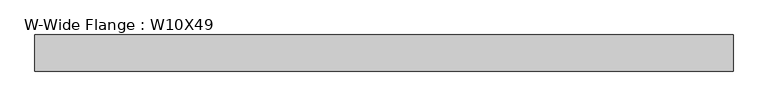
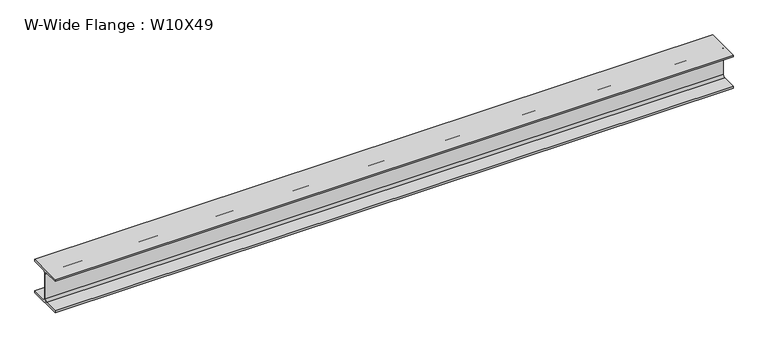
"""IFC4 building model written with IfcOpenShell, lengths in millimetres: beam geometry, W-Wide Flange : W10X49."""

from ifc_helpers import new_model, si_unit, point, frame, frame_2d, origin, place, context, project, spatial, polyline, circle_curve, trimmed, segment, composite_curve, outline, extrude, source, transform, mapped, element, save


def w_wide_flange_w10x49_a7e93ba8(model_context):
    return source(origin(), model_context, "Body", "SweptSolid", [
        extrude(outline(composite_curve([segment(polyline([(127.0, -112.776), (127.0, -127.0), (-127.0, -127.0), (-127.0, -112.776), (-21.844, -112.776)]), True, "CONTINUOUS"), segment(trimmed(circle_curve(frame_2d((-21.844, -95.25)), 17.526), [point((-21.844, -112.776))], [point((-4.318, -95.25))], True, "CARTESIAN"), True, "CONTINUOUS"), segment(polyline([(-4.318, -95.25), (-4.318, 95.25)]), True, "CONTINUOUS"), segment(trimmed(circle_curve(frame_2d((-21.844, 95.25)), 17.526), [point((-4.318, 95.25))], [point((-21.844, 112.776))], True, "CARTESIAN"), True, "CONTINUOUS"), segment(polyline([(-21.844, 112.776), (-127.0, 112.776), (-127.0, 127.0), (127.0, 127.0), (127.0, 112.776), (21.844, 112.776)]), True, "CONTINUOUS"), segment(trimmed(circle_curve(frame_2d((21.844, 95.25)), 17.526), [point((21.844, 112.776))], [point((4.318, 95.25))], True, "CARTESIAN"), True, "CONTINUOUS"), segment(polyline([(4.318, 95.25), (4.318, -95.25)]), True, "CONTINUOUS"), segment(trimmed(circle_curve(frame_2d((21.844, -95.25)), 17.526), [point((4.318, -95.25))], [point((21.844, -112.776))], True, "CARTESIAN"), True, "CONTINUOUS"), segment(polyline([(21.844, -112.776), (127.0, -112.776)]), True, "CONTINUOUS")], self_intersect=False)), frame((-2434.7118235, 0.0, 0.0), z_axis=(1.0, 0.0, 0.0), x_axis=(0.0, 1.0, 0.0)), (0.0, 0.0, 1.0), 4912.4195312),
    ])


if __name__ == "__main__":
    model = new_model("IFC4")
    model_context = context("Model", 3, world=origin())
    ifc_project = project(units=[si_unit("LENGTHUNIT", "METRE", prefix="MILLI")], contexts=[model_context])
    site = spatial("IfcSite", under=ifc_project)
    building = spatial("IfcBuilding", under=site)
    placement = place(None, origin())
    w_wide_flange_w10x49_shape = w_wide_flange_w10x49_a7e93ba8(model_context)
    element("IfcBeam", 1, ObjectType="W-Wide Flange : W10X49", at=placement, inside=building, context=model_context, shape_type="MappedRepresentation", body=[
        mapped(w_wide_flange_w10x49_shape, transform((0.0, 0.0, 0.0), x_axis=(1.0, 0.0, 0.0), y_axis=(0.0, 1.0, 0.0), z_axis=(0.0, 0.0, 1.0))),
    ])
    save(model, "model.ifc")
